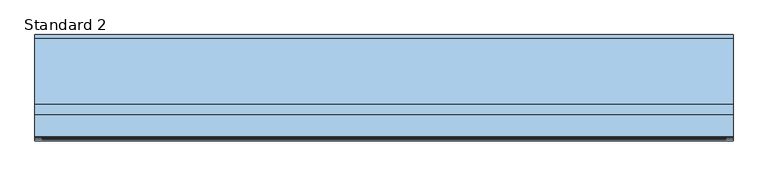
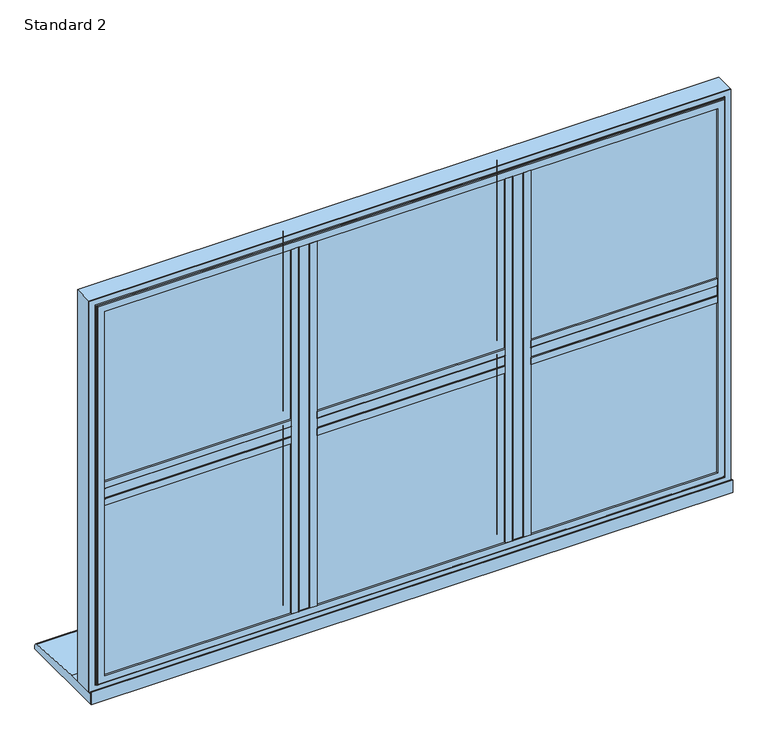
"""IFC4 building model written with IfcOpenShell, lengths in millimetres: window geometry, SMARTS_AlithermHeritage : Standard 2."""

from ifc_helpers import new_model, si_unit, point, frame, frame_2d, origin, place, context, project, spatial, polyline, circle_curve, ellipse_curve, trimmed, segment, composite_curve, outline, extrude, faceted_brep, source, transform, mapped, element, save
from ifc_brep_helpers import plane_surface, cylinder_surface, revolved_surface, advanced_brep


def standard_2_23cd1c4a(model_context):
    return source(origin(), model_context, "Body", "SolidModel", [
        extrude(outline(polyline([(-260.3608122, 95.2798432), (-232.9725211, 95.2798432), (-232.9725211, 47.279476), (-260.3608122, 47.279476), (-260.3608122, 95.2798432)])), frame((0.0, 0.0, 652.6941456), z_axis=(0.0, 0.0, 1.0), x_axis=(1.0, 0.0, 0.0)), (0.0, 0.0, 1.0), 919.6117089),
        extrude(outline(composite_curve([segment(polyline([(-275.6666667, 47.279476), (-217.6666667, 47.279476), (-217.6666667, 43.2798432), (-233.6666667, 43.2798432)]), True, "CONTINUOUS"), segment(trimmed(circle_curve(frame_2d((-233.6666667, 44.2798432)), 1.0), [point((-233.6666667, 43.2798432))], [point((-234.6666667, 44.2798432))], False, "CARTESIAN"), True, "CONTINUOUS"), segment(polyline([(-234.6666667, 44.2798432), (-234.6666667, 45.7798432), (-258.6666667, 45.7798432), (-258.6666667, 44.2798432)]), True, "CONTINUOUS"), segment(trimmed(circle_curve(frame_2d((-259.6666667, 44.2798432)), 1.0), [point((-258.6666667, 44.2798432))], [point((-259.6666667, 43.2798432))], False, "CARTESIAN"), True, "CONTINUOUS"), segment(polyline([(-259.6666667, 43.2798432), (-275.6666667, 43.2798432), (-275.6666667, 47.279476)]), True, "CONTINUOUS")], self_intersect=False)), frame((0.0, 0.0, 668.0), z_axis=(0.0, 0.0, 1.0), x_axis=(1.0, 0.0, 0.0)), (0.0, 0.0, 1.0), 889.0),
        extrude(outline(polyline([(232.9725211, 95.2798432), (260.3608122, 95.2798432), (260.3608122, 47.279476), (232.9725211, 47.279476), (232.9725211, 95.2798432)])), frame((0.0, 0.0, 652.6941456), z_axis=(0.0, 0.0, 1.0), x_axis=(1.0, 0.0, 0.0)), (0.0, 0.0, 1.0), 919.6117089),
        extrude(outline(composite_curve([segment(polyline([(217.6666667, 47.279476), (275.6666667, 47.279476), (275.6666667, 43.2798432), (259.6666667, 43.2798432)]), True, "CONTINUOUS"), segment(trimmed(circle_curve(frame_2d((259.6666667, 44.2798432)), 1.0), [point((259.6666667, 43.2798432))], [point((258.6666667, 44.2798432))], False, "CARTESIAN"), True, "CONTINUOUS"), segment(polyline([(258.6666667, 44.2798432), (258.6666667, 45.7798432), (234.6666667, 45.7798432), (234.6666667, 44.2798432)]), True, "CONTINUOUS"), segment(trimmed(circle_curve(frame_2d((233.6666667, 44.2798432)), 1.0), [point((234.6666667, 44.2798432))], [point((233.6666667, 43.2798432))], False, "CARTESIAN"), True, "CONTINUOUS"), segment(polyline([(233.6666667, 43.2798432), (217.6666667, 43.2798432), (217.6666667, 47.279476)]), True, "CONTINUOUS")], self_intersect=False)), frame((0.0, 0.0, 668.0), z_axis=(0.0, 0.0, 1.0), x_axis=(1.0, 0.0, 0.0)), (0.0, 0.0, 1.0), 889.0),
        extrude(outline(polyline([(-260.3608122, 95.2798432), (-260.3608122, 47.279476), (-722.3058544, 47.279476), (-722.3058544, 95.2798432), (-260.3608122, 95.2798432)])), frame((0.0, 0.0, 1098.8058544), z_axis=(0.0, 0.0, 1.0), x_axis=(1.0, 0.0, 0.0)), (0.0, 0.0, 1.0), 27.3882911),
        extrude(outline(composite_curve([segment(polyline([(47.279476, 1083.5), (43.2798432, 1083.5), (43.2798432, 1099.5)]), True, "CONTINUOUS"), segment(trimmed(circle_curve(frame_2d((44.2798432, 1099.5)), 1.0), [point((43.2798432, 1099.5))], [point((44.2798432, 1100.5))], False, "CARTESIAN"), True, "CONTINUOUS"), segment(polyline([(44.2798432, 1100.5), (45.7798432, 1100.5), (45.7798432, 1124.5), (44.2798432, 1124.5)]), True, "CONTINUOUS"), segment(trimmed(circle_curve(frame_2d((44.2798432, 1125.5)), 1.0), [point((44.2798432, 1124.5))], [point((43.2798432, 1125.5))], False, "CARTESIAN"), True, "CONTINUOUS"), segment(polyline([(43.2798432, 1125.5), (43.2798432, 1141.5), (47.279476, 1141.5), (47.279476, 1083.5)]), True, "CONTINUOUS")], self_intersect=False)), frame((-707.0, 0.0, 0.0), z_axis=(1.0, 0.0, 0.0), x_axis=(0.0, 1.0, 0.0)), (0.0, 0.0, 1.0), 431.3333333),
        extrude(outline(polyline([(232.9725211, 95.2798432), (232.9725211, 47.279476), (-232.9725211, 47.279476), (-232.9725211, 95.2798432), (232.9725211, 95.2798432)])), frame((0.0, 0.0, 1098.8058544), z_axis=(0.0, 0.0, 1.0), x_axis=(1.0, 0.0, 0.0)), (0.0, 0.0, 1.0), 27.3882911),
        extrude(outline(composite_curve([segment(polyline([(47.279476, 1083.5), (43.2798432, 1083.5), (43.2798432, 1099.5)]), True, "CONTINUOUS"), segment(trimmed(circle_curve(frame_2d((44.2798432, 1099.5)), 1.0), [point((43.2798432, 1099.5))], [point((44.2798432, 1100.5))], False, "CARTESIAN"), True, "CONTINUOUS"), segment(polyline([(44.2798432, 1100.5), (45.7798432, 1100.5), (45.7798432, 1124.5), (44.2798432, 1124.5)]), True, "CONTINUOUS"), segment(trimmed(circle_curve(frame_2d((44.2798432, 1125.5)), 1.0), [point((44.2798432, 1124.5))], [point((43.2798432, 1125.5))], False, "CARTESIAN"), True, "CONTINUOUS"), segment(polyline([(43.2798432, 1125.5), (43.2798432, 1141.5), (47.279476, 1141.5), (47.279476, 1083.5)]), True, "CONTINUOUS")], self_intersect=False)), frame((-217.6666667, 0.0, 0.0), z_axis=(1.0, 0.0, 0.0), x_axis=(0.0, 1.0, 0.0)), (0.0, 0.0, 1.0), 435.3333333),
        extrude(outline(polyline([(722.3058544, 95.2798432), (722.3058544, 47.279476), (260.3608122, 47.279476), (260.3608122, 95.2798432), (722.3058544, 95.2798432)])), frame((0.0, 0.0, 1098.8058544), z_axis=(0.0, 0.0, 1.0), x_axis=(1.0, 0.0, 0.0)), (0.0, 0.0, 1.0), 27.3882911),
        extrude(outline(composite_curve([segment(polyline([(47.279476, 1083.5), (43.2798432, 1083.5), (43.2798432, 1099.5)]), True, "CONTINUOUS"), segment(trimmed(circle_curve(frame_2d((44.2798432, 1099.5)), 1.0), [point((43.2798432, 1099.5))], [point((44.2798432, 1100.5))], False, "CARTESIAN"), True, "CONTINUOUS"), segment(polyline([(44.2798432, 1100.5), (45.7798432, 1100.5), (45.7798432, 1124.5), (44.2798432, 1124.5)]), True, "CONTINUOUS"), segment(trimmed(circle_curve(frame_2d((44.2798432, 1125.5)), 1.0), [point((44.2798432, 1124.5))], [point((43.2798432, 1125.5))], False, "CARTESIAN"), True, "CONTINUOUS"), segment(polyline([(43.2798432, 1125.5), (43.2798432, 1141.5), (47.279476, 1141.5), (47.279476, 1083.5)]), True, "CONTINUOUS")], self_intersect=False)), frame((275.6666667, 0.0, 0.0), z_axis=(1.0, 0.0, 0.0), x_axis=(0.0, 1.0, 0.0)), (0.0, 0.0, 1.0), 431.3333333),
        extrude(outline(polyline([(-717.0, 75.2798432), (-265.6666667, 75.2798432), (-265.6666667, 71.2798432), (-717.0, 71.2798432), (-717.0, 75.2798432)])), frame((0.0, 0.0, 658.0), z_axis=(0.0, 0.0, 1.0), x_axis=(1.0, 0.0, 0.0)), (0.0, 0.0, 1.0), 435.5),
        extrude(outline(polyline([(-717.0, 55.2798432), (-265.6666667, 55.2798432), (-265.6666667, 51.2798432), (-717.0, 51.2798432), (-717.0, 55.2798432)])), frame((0.0, 0.0, 658.0), z_axis=(0.0, 0.0, 1.0), x_axis=(1.0, 0.0, 0.0)), (0.0, 0.0, 1.0), 435.5),
        extrude(outline(polyline([(1093.5, -717.0), (658.0, -717.0), (658.0, -265.6666667), (1093.5, -265.6666667), (1093.5, -717.0)]), holes=[polyline([(1083.5, -275.6666667), (668.0, -275.6666667), (668.0, -707.0), (1083.5, -707.0), (1083.5, -275.6666667)])]), frame((0.0, 55.2798432, 0.0), z_axis=(0.0, 1.0, 0.0), x_axis=(0.0, 0.0, 1.0)), (0.0, 0.0, 1.0), 16.0),
        faceted_brep([(-265.8517818, 95.2798432, 1093.3148849), (-275.6666667, 78.2798098, 1083.5), (-707.0, 78.2798098, 1083.5), (-716.8148849, 95.2798432, 1093.3148849), (-260.2963991, 78.2798098, 1098.8702676), (-260.2963991, 95.2798432, 1098.8702676), (-722.3702676, 95.2798432, 1098.8702676), (-722.3702676, 78.2798098, 1098.8702676), (-722.3702676, 78.2798098, 652.6297324), (-722.3702676, 95.2798432, 652.6297324), (-260.2963991, 95.2798432, 652.6297324), (-260.2963991, 78.2798098, 652.6297324), (-716.8148849, 95.2798432, 658.1851151), (-265.8517818, 95.2798432, 658.1851151), (-275.6666667, 78.2798098, 668.0), (-707.0, 78.2798098, 668.0)], [[[0, 1, 2, 3]], [[4, 5, 6, 7]], [[8, 9, 10, 11]], [[5, 10, 9, 6], [3, 12, 13, 0]], [[7, 8, 11, 4], [1, 14, 15, 2]], [[3, 2, 15, 12]], [[7, 6, 9, 8]], [[12, 15, 14, 13]], [[13, 14, 1, 0]], [[11, 10, 5, 4]]]),
        extrude(outline(polyline([(-717.0, 75.2798432), (-265.6666667, 75.2798432), (-265.6666667, 71.2798432), (-717.0, 71.2798432), (-717.0, 75.2798432)])), frame((0.0, 0.0, 1131.5), z_axis=(0.0, 0.0, 1.0), x_axis=(1.0, 0.0, 0.0)), (0.0, 0.0, 1.0), 435.5),
        extrude(outline(polyline([(-717.0, 55.2798432), (-265.6666667, 55.2798432), (-265.6666667, 51.2798432), (-717.0, 51.2798432), (-717.0, 55.2798432)])), frame((0.0, 0.0, 1131.5), z_axis=(0.0, 0.0, 1.0), x_axis=(1.0, 0.0, 0.0)), (0.0, 0.0, 1.0), 435.5),
        extrude(outline(polyline([(1567.0, -717.0), (1131.5, -717.0), (1131.5, -265.6666667), (1567.0, -265.6666667), (1567.0, -717.0)]), holes=[polyline([(1557.0, -275.6666667), (1141.5, -275.6666667), (1141.5, -707.0), (1557.0, -707.0), (1557.0, -275.6666667)])]), frame((0.0, 55.2798432, 0.0), z_axis=(0.0, 1.0, 0.0), x_axis=(0.0, 0.0, 1.0)), (0.0, 0.0, 1.0), 16.0),
        faceted_brep([(-265.8517818, 95.2798432, 1566.8148849), (-275.6666667, 78.2798098, 1557.0), (-707.0, 78.2798098, 1557.0), (-716.8148849, 95.2798432, 1566.8148849), (-260.2963991, 78.2798098, 1572.3702676), (-260.2963991, 95.2798432, 1572.3702676), (-722.3702676, 95.2798432, 1572.3702676), (-722.3702676, 78.2798098, 1572.3702676), (-722.3702676, 78.2798098, 1126.1297324), (-722.3702676, 95.2798432, 1126.1297324), (-260.2963991, 95.2798432, 1126.1297324), (-260.2963991, 78.2798098, 1126.1297324), (-716.8148849, 95.2798432, 1131.6851151), (-265.8517818, 95.2798432, 1131.6851151), (-275.6666667, 78.2798098, 1141.5), (-707.0, 78.2798098, 1141.5)], [[[0, 1, 2, 3]], [[4, 5, 6, 7]], [[8, 9, 10, 11]], [[5, 10, 9, 6], [3, 12, 13, 0]], [[7, 8, 11, 4], [1, 14, 15, 2]], [[3, 2, 15, 12]], [[7, 6, 9, 8]], [[12, 15, 14, 13]], [[13, 14, 1, 0]], [[11, 10, 5, 4]]]),
        extrude(outline(polyline([(-227.6666667, 75.2798432), (227.6666667, 75.2798432), (227.6666667, 71.2798432), (-227.6666667, 71.2798432), (-227.6666667, 75.2798432)])), frame((0.0, 0.0, 658.0), z_axis=(0.0, 0.0, 1.0), x_axis=(1.0, 0.0, 0.0)), (0.0, 0.0, 1.0), 435.5),
        extrude(outline(polyline([(-227.6666667, 55.2798432), (227.6666667, 55.2798432), (227.6666667, 51.2798432), (-227.6666667, 51.2798432), (-227.6666667, 55.2798432)])), frame((0.0, 0.0, 658.0), z_axis=(0.0, 0.0, 1.0), x_axis=(1.0, 0.0, 0.0)), (0.0, 0.0, 1.0), 435.5),
        extrude(outline(polyline([(1093.5, -227.6666667), (658.0, -227.6666667), (658.0, 227.6666667), (1093.5, 227.6666667), (1093.5, -227.6666667)]), holes=[polyline([(1083.5, 217.6666667), (668.0, 217.6666667), (668.0, -217.6666667), (1083.5, -217.6666667), (1083.5, 217.6666667)])]), frame((0.0, 55.2798432, 0.0), z_axis=(0.0, 1.0, 0.0), x_axis=(0.0, 0.0, 1.0)), (0.0, 0.0, 1.0), 16.0),
        faceted_brep([(227.4815515, 95.2798432, 1093.3148849), (217.6666667, 78.2798098, 1083.5), (-217.6666667, 78.2798098, 1083.5), (-227.4815515, 95.2798432, 1093.3148849), (233.0369343, 78.2798098, 1098.8702676), (233.0369343, 95.2798432, 1098.8702676), (-233.0369343, 95.2798432, 1098.8702676), (-233.0369343, 78.2798098, 1098.8702676), (-233.0369343, 78.2798098, 652.6297324), (-233.0369343, 95.2798432, 652.6297324), (233.0369343, 95.2798432, 652.6297324), (233.0369343, 78.2798098, 652.6297324), (-227.4815515, 95.2798432, 658.1851151), (227.4815515, 95.2798432, 658.1851151), (217.6666667, 78.2798098, 668.0), (-217.6666667, 78.2798098, 668.0)], [[[0, 1, 2, 3]], [[4, 5, 6, 7]], [[8, 9, 10, 11]], [[5, 10, 9, 6], [3, 12, 13, 0]], [[7, 8, 11, 4], [1, 14, 15, 2]], [[3, 2, 15, 12]], [[7, 6, 9, 8]], [[12, 15, 14, 13]], [[13, 14, 1, 0]], [[11, 10, 5, 4]]]),
        extrude(outline(polyline([(-227.6666667, 75.2798432), (227.6666667, 75.2798432), (227.6666667, 71.2798432), (-227.6666667, 71.2798432), (-227.6666667, 75.2798432)])), frame((0.0, 0.0, 1131.5), z_axis=(0.0, 0.0, 1.0), x_axis=(1.0, 0.0, 0.0)), (0.0, 0.0, 1.0), 435.5),
        extrude(outline(polyline([(-227.6666667, 55.2798432), (227.6666667, 55.2798432), (227.6666667, 51.2798432), (-227.6666667, 51.2798432), (-227.6666667, 55.2798432)])), frame((0.0, 0.0, 1131.5), z_axis=(0.0, 0.0, 1.0), x_axis=(1.0, 0.0, 0.0)), (0.0, 0.0, 1.0), 435.5),
        extrude(outline(polyline([(1567.0, -227.6666667), (1131.5, -227.6666667), (1131.5, 227.6666667), (1567.0, 227.6666667), (1567.0, -227.6666667)]), holes=[polyline([(1557.0, 217.6666667), (1141.5, 217.6666667), (1141.5, -217.6666667), (1557.0, -217.6666667), (1557.0, 217.6666667)])]), frame((0.0, 55.2798432, 0.0), z_axis=(0.0, 1.0, 0.0), x_axis=(0.0, 0.0, 1.0)), (0.0, 0.0, 1.0), 16.0),
        faceted_brep([(227.4815515, 95.2798432, 1566.8148849), (217.6666667, 78.2798098, 1557.0), (-217.6666667, 78.2798098, 1557.0), (-227.4815515, 95.2798432, 1566.8148849), (233.0369343, 78.2798098, 1572.3702676), (233.0369343, 95.2798432, 1572.3702676), (-233.0369343, 95.2798432, 1572.3702676), (-233.0369343, 78.2798098, 1572.3702676), (-233.0369343, 78.2798098, 1126.1297324), (-233.0369343, 95.2798432, 1126.1297324), (233.0369343, 95.2798432, 1126.1297324), (233.0369343, 78.2798098, 1126.1297324), (-227.4815515, 95.2798432, 1131.6851151), (227.4815515, 95.2798432, 1131.6851151), (217.6666667, 78.2798098, 1141.5), (-217.6666667, 78.2798098, 1141.5)], [[[0, 1, 2, 3]], [[4, 5, 6, 7]], [[8, 9, 10, 11]], [[5, 10, 9, 6], [3, 12, 13, 0]], [[7, 8, 11, 4], [1, 14, 15, 2]], [[3, 2, 15, 12]], [[7, 6, 9, 8]], [[12, 15, 14, 13]], [[13, 14, 1, 0]], [[11, 10, 5, 4]]]),
        extrude(outline(polyline([(265.6666667, 75.2798432), (717.0, 75.2798432), (717.0, 71.2798432), (265.6666667, 71.2798432), (265.6666667, 75.2798432)])), frame((0.0, 0.0, 658.0), z_axis=(0.0, 0.0, 1.0), x_axis=(1.0, 0.0, 0.0)), (0.0, 0.0, 1.0), 435.5),
        extrude(outline(polyline([(265.6666667, 55.2798432), (717.0, 55.2798432), (717.0, 51.2798432), (265.6666667, 51.2798432), (265.6666667, 55.2798432)])), frame((0.0, 0.0, 658.0), z_axis=(0.0, 0.0, 1.0), x_axis=(1.0, 0.0, 0.0)), (0.0, 0.0, 1.0), 435.5),
        extrude(outline(polyline([(1093.5, 265.6666667), (658.0, 265.6666667), (658.0, 717.0), (1093.5, 717.0), (1093.5, 265.6666667)]), holes=[polyline([(1083.5, 707.0), (668.0, 707.0), (668.0, 275.6666667), (1083.5, 275.6666667), (1083.5, 707.0)])]), frame((0.0, 55.2798432, 0.0), z_axis=(0.0, 1.0, 0.0), x_axis=(0.0, 0.0, 1.0)), (0.0, 0.0, 1.0), 16.0),
        faceted_brep([(716.8148849, 95.2798432, 1093.3148849), (707.0, 78.2798098, 1083.5), (275.6666667, 78.2798098, 1083.5), (265.8517818, 95.2798432, 1093.3148849), (722.3702676, 78.2798098, 1098.8702676), (722.3702676, 95.2798432, 1098.8702676), (260.2963991, 95.2798432, 1098.8702676), (260.2963991, 78.2798098, 1098.8702676), (260.2963991, 78.2798098, 652.6297324), (260.2963991, 95.2798432, 652.6297324), (722.3702676, 95.2798432, 652.6297324), (722.3702676, 78.2798098, 652.6297324), (265.8517818, 95.2798432, 658.1851151), (716.8148849, 95.2798432, 658.1851151), (707.0, 78.2798098, 668.0), (275.6666667, 78.2798098, 668.0)], [[[0, 1, 2, 3]], [[4, 5, 6, 7]], [[8, 9, 10, 11]], [[5, 10, 9, 6], [3, 12, 13, 0]], [[7, 8, 11, 4], [1, 14, 15, 2]], [[3, 2, 15, 12]], [[7, 6, 9, 8]], [[12, 15, 14, 13]], [[13, 14, 1, 0]], [[11, 10, 5, 4]]]),
        extrude(outline(polyline([(1590.0, 740.0), (1590.0, -740.0), (635.0, -740.0), (635.0, 740.0), (1590.0, 740.0)]), holes=[polyline([(652.7000182, 722.2999818), (652.7000182, -722.2999818), (1572.2999818, -722.2999818), (1572.2999818, 722.2999818), (652.7000182, 722.2999818)])]), frame((0.0, 50.279857, 0.0), z_axis=(0.0, 1.0, 0.0), x_axis=(0.0, 0.0, 1.0)), (0.0, 0.0, 1.0), 44.9999962),
        advanced_brep(
        [(707.0, 43.2798432, 1557.0), (707.0, 47.2798432, 1557.0), (707.0, 47.2798432, 668.0), (707.0, 43.2798432, 668.0), (740.0, 50.279857, 1590.0), (740.0, 48.279857, 1590.0), (740.0, 48.279857, 635.0), (740.0, 50.279857, 635.0), (722.4999818, 43.2798432, 1572.4999818), (-722.4999818, 43.2798432, 1572.4999818), (-722.4999818, 43.2798432, 652.5000182), (722.4999818, 43.2798432, 652.5000182), (-707.0, 43.2798432, 668.0), (-707.0, 43.2798432, 1557.0), (-740.0, 50.279857, 1590.0), (-740.0, 48.279857, 1590.0), (-740.0, 50.279857, 635.0), (722.2999818, 50.279857, 1572.2999818), (-722.2999818, 50.279857, 1572.2999818), (-722.2999818, 50.279857, 652.7000182), (722.2999818, 50.279857, 652.7000182), (-707.0, 47.2798432, 1557.0), (-707.0, 47.2798432, 668.0), (-740.0, 48.279857, 635.0), (-722.2999818, 47.2798432, 1572.2999818), (722.2999818, 47.2798432, 1572.2999818), (722.2999818, 47.2798432, 652.7000182), (724.4999818, 46.779857, 650.5000182), (724.4999818, 45.2798432, 650.5000182), (-724.4999818, 45.2798432, 650.5000182), (-724.4999818, 46.779857, 650.5000182), (724.4999818, 46.779857, 1574.4999818), (724.4999818, 45.2798432, 1574.4999818), (-722.2999818, 47.2798432, 652.7000182), (-724.4999818, 45.2798432, 1574.4999818), (-724.4999818, 46.779857, 1574.4999818), (725.9999818, 48.279857, 1575.9999818), (725.9999818, 48.279857, 649.0000182), (-725.9999818, 48.279857, 649.0000182), (-725.9999818, 48.279857, 1575.9999818)],
        [
            (0, 1),
            (1, 2),
            (2, 3),
            (3, 0),
            (4, 5),
            (5, 6),
            (6, 7),
            (7, 4),
            (8, 9),
            (9, 10),
            (10, 11),
            (11, 8),
            (3, 12),
            (12, 13),
            (13, 0),
            (14, 15),
            (15, 5),
            (4, 14),
            (7, 16),
            (16, 14),
            (17, 18),
            (18, 19),
            (19, 20),
            (20, 17),
            (13, 21),
            (21, 1),
            (2, 22),
            (22, 12),
            (22, 21),
            (6, 23),
            (23, 16),
            (23, 15),
            (24, 18),
            (17, 25),
            (25, 24),
            (20, 26),
            (26, 25),
            (27, 28),
            (28, 29),
            (29, 30),
            (30, 27),
            (31, 32),
            (32, 28),
            (27, 31),
            (19, 33),
            (33, 26),
            (24, 33),
            (29, 34),
            (34, 35),
            (35, 30),
            (34, 32),
            (31, 35),
            (36, 31, ellipse_curve(frame((725.9999818, 46.779857, 1575.9999818), z_axis=(-0.7071067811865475, 0.0, 0.7071067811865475), x_axis=(-0.7071067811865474, 0.0, -0.7071067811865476)), 2.1213203, 1.5)),
            (27, 37, ellipse_curve(frame((725.9999818, 46.779857, 649.0000182), z_axis=(-0.7071067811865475, 0.0, -0.7071067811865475), x_axis=(0.7071067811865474, 0.0, -0.7071067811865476)), 2.1213203, 1.5)),
            (37, 36),
            (30, 38, ellipse_curve(frame((-725.9999818, 46.779857, 649.0000182), z_axis=(-0.7071067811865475, 0.0, 0.7071067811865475), x_axis=(-0.7071067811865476, 0.0, -0.7071067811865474)), 2.1213203, 1.5)),
            (38, 37),
            (35, 39, ellipse_curve(frame((-725.9999818, 46.779857, 1575.9999818), z_axis=(0.7071067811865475, 0.0, 0.7071067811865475), x_axis=(-0.7071067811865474, 0.0, 0.7071067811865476)), 2.1213203, 1.5)),
            (39, 38),
            (36, 39),
            (32, 8, ellipse_curve(frame((722.4999818, 45.2798432, 1572.4999818), z_axis=(0.7071067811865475, 0.0, -0.7071067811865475), x_axis=(0.7071067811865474, 0.0, 0.7071067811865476)), 2.8284271, 2.0)),
            (11, 28, ellipse_curve(frame((722.4999818, 45.2798432, 652.5000182), z_axis=(0.7071067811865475, 0.0, 0.7071067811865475), x_axis=(-0.7071067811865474, 0.0, 0.7071067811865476)), 2.8284271, 2.0)),
            (10, 29, ellipse_curve(frame((-722.4999818, 45.2798432, 652.5000182), z_axis=(0.7071067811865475, 0.0, -0.7071067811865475), x_axis=(0.7071067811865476, 0.0, 0.7071067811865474)), 2.8284271, 2.0)),
            (9, 34, ellipse_curve(frame((-722.4999818, 45.2798432, 1572.4999818), z_axis=(-0.7071067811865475, 0.0, -0.7071067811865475), x_axis=(0.7071067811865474, 0.0, -0.7071067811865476)), 2.8284271, 2.0)),
        ],
        [
            plane_surface(frame((707.0, 47.2798432, 1557.0), z_axis=(-1.0, 0.0, 0.0), x_axis=(0.0, 0.0, -1.0))),
            plane_surface(frame((740.0, 48.279857, 1590.0), z_axis=(1.0, 0.0, 0.0), x_axis=(0.0, 0.0, -1.0))),
            plane_surface(frame((-707.0, 43.2798432, 1557.0), z_axis=(0.0, -1.0, 0.0), x_axis=(1.0, 0.0, 0.0))),
            plane_surface(frame((-740.0, 48.279857, 1590.0), z_axis=(0.0, 0.0, 1.0), x_axis=(1.0, 0.0, 0.0))),
            plane_surface(frame((-740.0, 50.279857, 1590.0), z_axis=(0.0, 1.0, 0.0), x_axis=(1.0, 0.0, 0.0))),
            plane_surface(frame((-707.0, 47.2798432, 1557.0), z_axis=(0.0, 0.0, -1.0), x_axis=(1.0, 0.0, 0.0))),
            plane_surface(frame((707.0, 47.2798432, 668.0), z_axis=(0.0, 0.0, 1.0), x_axis=(-1.0, 0.0, 0.0))),
            plane_surface(frame((-707.0, 47.2798432, 668.0), z_axis=(1.0, 0.0, 0.0), x_axis=(0.0, 0.0, 1.0))),
            plane_surface(frame((740.0, 48.279857, 635.0), z_axis=(0.0, 0.0, -1.0), x_axis=(-1.0, 0.0, 0.0))),
            plane_surface(frame((-740.0, 48.279857, 635.0), z_axis=(-1.0, 0.0, 0.0), x_axis=(0.0, 0.0, 1.0))),
            plane_surface(frame((-722.2999818, 50.279857, 1572.2999818), z_axis=(0.0, 0.0, -1.0), x_axis=(1.0, 0.0, 0.0))),
            plane_surface(frame((722.2999818, 50.279857, 1572.2999818), z_axis=(-1.0, 0.0, 0.0), x_axis=(0.0, 0.0, -1.0))),
            plane_surface(frame((724.4999818, 45.2798432, 650.5000182), z_axis=(0.0, 0.0, -1.0), x_axis=(-1.0, 0.0, 0.0))),
            plane_surface(frame((724.4999818, 45.2798432, 1574.4999818), z_axis=(1.0, 0.0, 0.0), x_axis=(0.0, 0.0, -1.0))),
            plane_surface(frame((722.2999818, 50.279857, 652.7000182), z_axis=(0.0, 0.0, 1.0), x_axis=(-1.0, 0.0, 0.0))),
            plane_surface(frame((-722.2999818, 50.279857, 652.7000182), z_axis=(1.0, 0.0, 0.0), x_axis=(0.0, 0.0, 1.0))),
            plane_surface(frame((-724.4999818, 45.2798432, 650.5000182), z_axis=(-1.0, 0.0, 0.0), x_axis=(0.0, 0.0, 1.0))),
            plane_surface(frame((-722.2999818, 47.2798432, 1572.2999818), z_axis=(0.0, 1.0, 0.0), x_axis=(1.0, 0.0, 0.0))),
            plane_surface(frame((-724.4999818, 45.2798432, 1574.4999818), z_axis=(0.0, 0.0, 1.0), x_axis=(1.0, 0.0, 0.0))),
            revolved_surface(polyline([(724.4999818, 46.779857, 647.5000182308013), (724.4999818, 46.779857, 1577.4999817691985)]), (725.9999818, 46.779857, 1590.0), (0.0, 0.0, -1.0)),
            revolved_surface(polyline([(-727.4999817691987, 46.779857, 650.5000182), (727.4999817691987, 46.779857, 650.5000182)]), (740.0, 46.779857, 649.0000182), (-1.0, 0.0, 0.0)),
            revolved_surface(polyline([(-724.4999818, 46.779857, 1577.4999817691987), (-724.4999818, 46.779857, 647.5000182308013)]), (-725.9999818, 46.779857, 635.0), (0.0, 0.0, 1.0)),
            revolved_surface(polyline([(727.4999817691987, 46.779857, 1574.4999818), (-727.4999817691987, 46.779857, 1574.4999818)]), (-740.0, 46.779857, 1575.9999818), (1.0, 0.0, 0.0)),
            plane_surface(frame((-725.9999818, 48.279857, 1575.9999818), z_axis=(0.0, -1.0, 0.0), x_axis=(1.0, 0.0, 0.0))),
            cylinder_surface(frame((722.4999818, 45.2798432, 1590.0), z_axis=(0.0, 0.0, 1.0), x_axis=(-1.0, 0.0, 0.0)), 2.0),
            cylinder_surface(frame((740.0, 45.2798432, 652.5000182), z_axis=(1.0, 0.0, 0.0), x_axis=(0.0, 0.0, 1.0)), 2.0),
            cylinder_surface(frame((-722.4999818, 45.2798432, 635.0), z_axis=(0.0, 0.0, -1.0), x_axis=(1.0, 0.0, 0.0)), 2.0),
            cylinder_surface(frame((-740.0, 45.2798432, 1572.4999818), z_axis=(-1.0, 0.0, 0.0), x_axis=(0.0, 0.0, -1.0)), 2.0),
        ],
        [
            (0, [[1, 2, 3, 4]]),
            (1, [[5, 6, 7, 8]]),
            (2, [[9, 10, 11, 12], [13, 14, 15, -4]]),
            (3, [[16, 17, -5, 18]]),
            (4, [[19, 20, -18, -8], [21, 22, 23, 24]]),
            (5, [[25, 26, -1, -15]]),
            (6, [[-3, 27, 28, -13]]),
            (7, [[-28, 29, -25, -14]]),
            (8, [[-7, 30, 31, -19]]),
            (9, [[-31, 32, -16, -20]]),
            (10, [[33, -21, 34, 35]]),
            (11, [[-34, -24, 36, 37]]),
            (12, [[38, 39, 40, 41]]),
            (13, [[42, 43, -38, 44]]),
            (14, [[-36, -23, 45, 46]]),
            (15, [[-45, -22, -33, 47]]),
            (16, [[-40, 48, 49, 50]]),
            (17, [[-46, -47, -35, -37], [-26, -29, -27, -2]]),
            (18, [[-49, 51, -42, 52]]),
            (19, [[53, -44, 54, 55]]),
            (20, [[-54, -41, 56, 57]]),
            (21, [[-56, -50, 58, 59]]),
            (22, [[-58, -52, -53, 60]]),
            (23, [[-17, -32, -30, -6], [-57, -59, -60, -55]]),
            (24, [[61, -12, 62, -43]]),
            (25, [[-62, -11, 63, -39]]),
            (26, [[-63, -10, 64, -48]]),
            (27, [[-64, -9, -61, -51]]),
        ],
    ),
        extrude(outline(polyline([(265.6666667, 75.2798432), (717.0, 75.2798432), (717.0, 71.2798432), (265.6666667, 71.2798432), (265.6666667, 75.2798432)])), frame((0.0, 0.0, 1131.5), z_axis=(0.0, 0.0, 1.0), x_axis=(1.0, 0.0, 0.0)), (0.0, 0.0, 1.0), 435.5),
        extrude(outline(polyline([(265.6666667, 55.2798432), (717.0, 55.2798432), (717.0, 51.2798432), (265.6666667, 51.2798432), (265.6666667, 55.2798432)])), frame((0.0, 0.0, 1131.5), z_axis=(0.0, 0.0, 1.0), x_axis=(1.0, 0.0, 0.0)), (0.0, 0.0, 1.0), 435.5),
        extrude(outline(polyline([(1567.0, 265.6666667), (1131.5, 265.6666667), (1131.5, 717.0), (1567.0, 717.0), (1567.0, 265.6666667)]), holes=[polyline([(1557.0, 707.0), (1141.5, 707.0), (1141.5, 275.6666667), (1557.0, 275.6666667), (1557.0, 707.0)])]), frame((0.0, 55.2798432, 0.0), z_axis=(0.0, 1.0, 0.0), x_axis=(0.0, 0.0, 1.0)), (0.0, 0.0, 1.0), 16.0),
        faceted_brep([(716.8148849, 95.2798432, 1566.8148849), (707.0, 78.2798098, 1557.0), (275.6666667, 78.2798098, 1557.0), (265.8517818, 95.2798432, 1566.8148849), (722.3702676, 78.2798098, 1572.3702676), (722.3702676, 95.2798432, 1572.3702676), (260.2963991, 95.2798432, 1572.3702676), (260.2963991, 78.2798098, 1572.3702676), (260.2963991, 78.2798098, 1126.1297324), (260.2963991, 95.2798432, 1126.1297324), (722.3702676, 95.2798432, 1126.1297324), (722.3702676, 78.2798098, 1126.1297324), (265.8517818, 95.2798432, 1131.6851151), (716.8148849, 95.2798432, 1131.6851151), (707.0, 78.2798098, 1141.5), (275.6666667, 78.2798098, 1141.5)], [[[0, 1, 2, 3]], [[4, 5, 6, 7]], [[8, 9, 10, 11]], [[5, 10, 9, 6], [3, 12, 13, 0]], [[7, 8, 11, 4], [1, 14, 15, 2]], [[3, 2, 15, 12]], [[7, 6, 9, 8]], [[12, 15, 14, 13]], [[13, 14, 1, 0]], [[11, 10, 5, 4]]]),
        extrude(outline(polyline([(740.0, 43.2798432), (740.0, 40.7798432), (-740.0, 40.7798432), (-740.0, 43.2798432), (740.0, 43.2798432)])), frame((0.0, 0.0, 610.0), z_axis=(0.0, 0.0, 1.0), x_axis=(1.0, 0.0, 0.0)), (0.0, 0.0, 1.0), 31.0),
        extrude(outline(composite_curve([segment(polyline([(265.7798432, 610.0), (43.2798432, 610.0), (43.2798432, 635.0), (118.7798432, 635.0), (258.4770891, 625.9276664)]), True, "CONTINUOUS"), segment(trimmed(circle_curve(frame_2d((257.7798432, 617.9581088)), 8.0), [point((258.4770891, 625.9276664))], [point((265.7798432, 617.9581088))], False, "CARTESIAN"), True, "CONTINUOUS"), segment(polyline([(265.7798432, 617.9581088), (265.7798432, 610.0)]), True, "CONTINUOUS")], self_intersect=False)), frame((-740.0, 0.0, 0.0), z_axis=(1.0, 0.0, 0.0), x_axis=(0.0, 1.0, 0.0)), (0.0, 0.0, 1.0), 1480.0),
    ])


if __name__ == "__main__":
    model = new_model("IFC4")
    model_context = context("Model", 3, world=origin())
    ifc_project = project(units=[si_unit("LENGTHUNIT", "METRE", prefix="MILLI")], contexts=[model_context])
    site = spatial("IfcSite", under=ifc_project)
    building = spatial("IfcBuilding", under=site)
    placement = place(None, origin())
    standard_2_shape = standard_2_23cd1c4a(model_context)
    element("IfcWindow", 1, ObjectType="SMARTS_AlithermHeritage : Standard 2", at=placement, inside=building, context=model_context, shape_type="MappedRepresentation", body=[
        mapped(standard_2_shape, transform((0.0, 0.0, 0.0), x_axis=(1.0, 0.0, 0.0), y_axis=(0.0, 1.0, 0.0), z_axis=(0.0, 0.0, 1.0))),
    ])
    save(model, "model.ifc")
